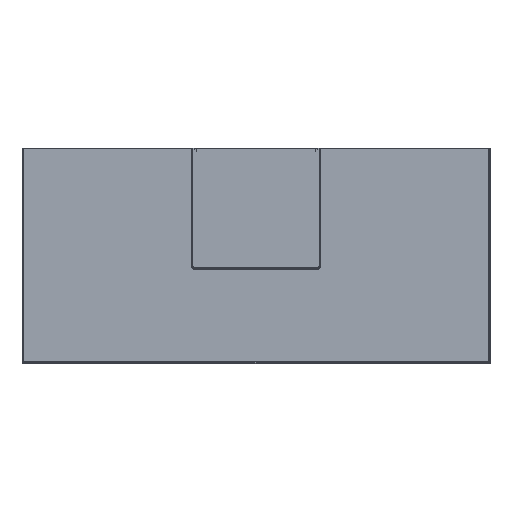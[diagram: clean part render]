
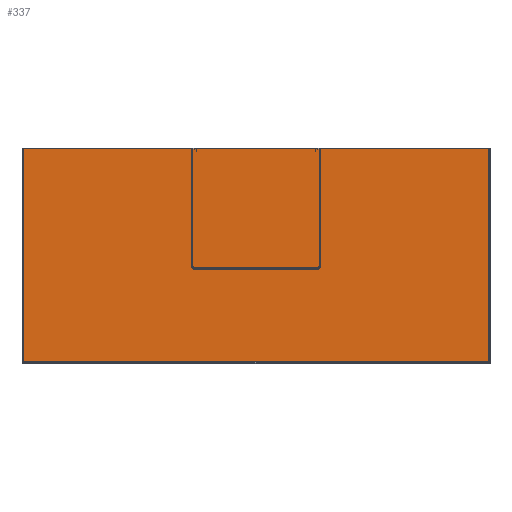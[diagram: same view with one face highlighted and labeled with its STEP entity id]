
A CAD part, top view. The second image highlights one B-rep face of the part: STEP entity #337.
In plain terms, the highlighted planar face has unit normal (0, 0, 1).
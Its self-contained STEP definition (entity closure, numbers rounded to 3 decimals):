
#337=ADVANCED_FACE('',(#546),#3233,.T.);
#546=FACE_OUTER_BOUND('',#755,.T.);
#755=EDGE_LOOP('',(#1691,#1692,#1693,#1694));
#1691=ORIENTED_EDGE('',*,*,#2215,.T.);
#1692=ORIENTED_EDGE('',*,*,#2216,.T.);
#1693=ORIENTED_EDGE('',*,*,#2217,.T.);
#1694=ORIENTED_EDGE('',*,*,#2218,.T.);
#2215=EDGE_CURVE('',#3023,#3024,#2707,.T.);
#2216=EDGE_CURVE('',#3024,#3025,#2708,.T.);
#2217=EDGE_CURVE('',#3025,#3026,#2709,.T.);
#2218=EDGE_CURVE('',#3026,#3023,#2710,.T.);
#2707=B_SPLINE_CURVE_WITH_KNOTS('',1,(#6573,#6574),.UNSPECIFIED.,.F.,.F.,
(2,2),(-1190.,0.),.UNSPECIFIED.);
#2708=B_SPLINE_CURVE_WITH_KNOTS('',1,(#6575,#6576),.UNSPECIFIED.,.F.,.F.,
(2,2),(-546.,0.),.UNSPECIFIED.);
#2709=B_SPLINE_CURVE_WITH_KNOTS('',1,(#6577,#6578),.UNSPECIFIED.,.F.,.F.,
(2,2),(-1190.,0.),.UNSPECIFIED.);
#2710=B_SPLINE_CURVE_WITH_KNOTS('',1,(#6579,#6580),.UNSPECIFIED.,.F.,.F.,
(2,2),(-546.,0.),.UNSPECIFIED.);
#3023=VERTEX_POINT('',#6553);
#3024=VERTEX_POINT('',#6554);
#3025=VERTEX_POINT('',#6555);
#3026=VERTEX_POINT('',#6556);
#3233=PLANE('',#3378);
#3378=AXIS2_PLACEMENT_3D('',#6470,#3506,$);
#3506=DIRECTION('',(0.,0.,1.));
#6470=CARTESIAN_POINT('',(-714.06,-327.66,55.));
#6553=CARTESIAN_POINT('',(595.,273.,55.));
#6554=CARTESIAN_POINT('',(-595.,273.,55.));
#6555=CARTESIAN_POINT('',(-595.,-273.,55.));
#6556=CARTESIAN_POINT('',(595.,-273.,55.));
#6573=CARTESIAN_POINT('',(595.,273.,55.));
#6574=CARTESIAN_POINT('',(-595.,273.,55.));
#6575=CARTESIAN_POINT('',(-595.,273.,55.));
#6576=CARTESIAN_POINT('',(-595.,-273.,55.));
#6577=CARTESIAN_POINT('',(-595.,-273.,55.));
#6578=CARTESIAN_POINT('',(595.,-273.,55.));
#6579=CARTESIAN_POINT('',(595.,-273.,55.));
#6580=CARTESIAN_POINT('',(595.,273.,55.));
